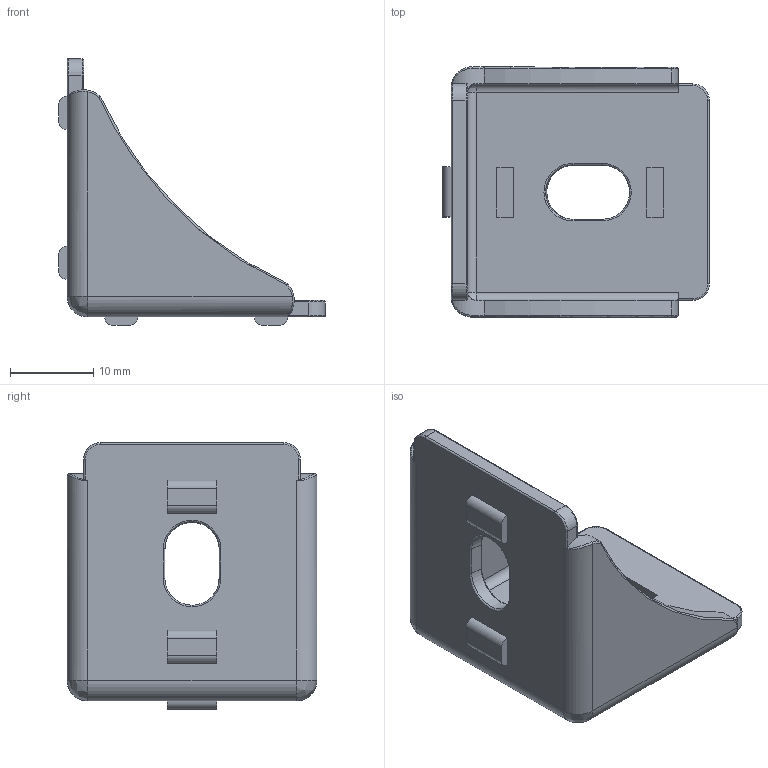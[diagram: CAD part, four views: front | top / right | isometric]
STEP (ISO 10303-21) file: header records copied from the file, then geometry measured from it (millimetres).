
FILE_DESCRIPTION (( 'STEP AP203' ), '1' );
FILE_NAME ('DCB3025Z-6.STEP', '2018-11-12T02:54:33', ( '' ), ( '' ), 'SwSTEP 2.0', 'SolidWorks 2012', '' );
FILE_SCHEMA (( 'CONFIG_CONTROL_DESIGN' ));
Length unit declared in the file: millimetre
Products named in the file (1): DCB3025Z-6
Bounding box: 32 x 30 x 32 mm (x, y, z)
Volume: 4337.5 mm3; surface area: 4748.2 mm2
Topology: 1 solids, 1 shells, 140 faces, 334 edges, 204 vertices
Faces by surface type: plane 54, cylinder 52, bspline 34
Entity records: 5621 total; most frequent: CARTESIAN_POINT 2611, ORIENTED_EDGE 668, DIRECTION 522, EDGE_CURVE 334, VERTEX_POINT 204, AXIS2_PLACEMENT_3D 179, LINE 164, VECTOR 164
